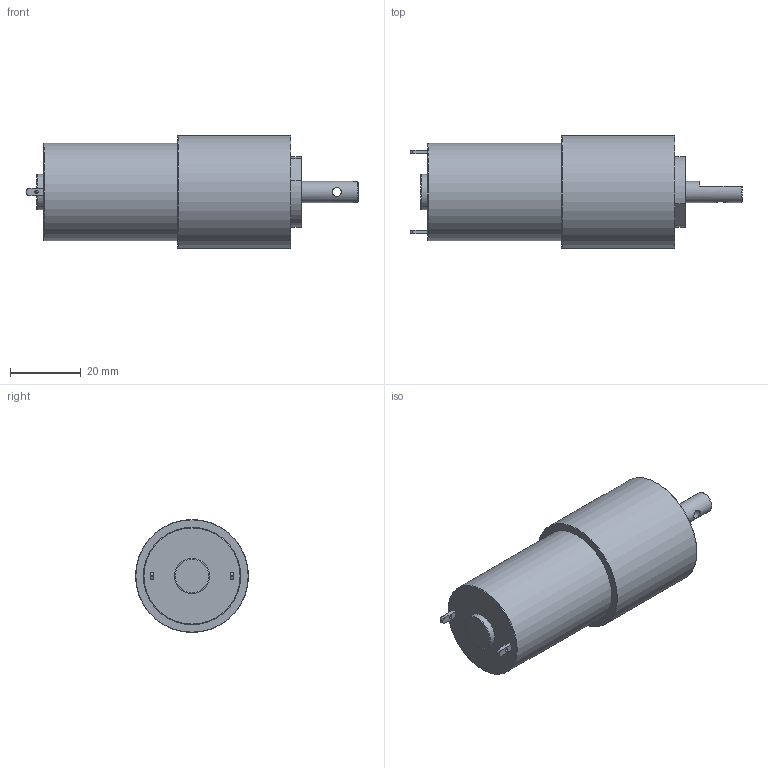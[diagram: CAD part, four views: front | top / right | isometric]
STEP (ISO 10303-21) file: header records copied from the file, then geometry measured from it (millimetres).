
FILE_DESCRIPTION(/* description */ (''),/* implementation_level */ '2;1');
FILE_NAME(/* name */ 'Rhino Planetary v2.step',/* time_stamp */ '2023-02-07T22:03:07+05:30',/* author */ (''),/* organization */ (''),/* preprocessor_version */ 'ST-DEVELOPER v19.2',/* originating_system */ 'Autodesk Translation Framework v11.17.0.187',/* authorisation */ '');
FILE_SCHEMA (('AUTOMOTIVE_DESIGN { 1 0 10303 214 3 1 1 }'));
Length unit declared in the file: millimetre
Products named in the file (2): Rhino Planetary; Component1
Assembly tree (1 placements, depth 2):
  Rhino Planetary
    Component1
Bounding box: 94 x 32 x 32 mm (x, y, z)
Volume: 49823.1 mm3; surface area: 8940.4 mm2
Topology: 2 solids, 2 shells, 49 faces, 111 edges, 74 vertices
Faces by surface type: plane 25, cylinder 17, torus 7
Full cylindrical faces by diameter (mm): 1 x2, 2.529 x5, 6 x1, 10 x1, 27.6 x1, 32 x1
Entity records: 1540 total; most frequent: CARTESIAN_POINT 334, DIRECTION 256, ORIENTED_EDGE 222, EDGE_CURVE 111, AXIS2_PLACEMENT_3D 102, VERTEX_POINT 74, EDGE_LOOP 63, LINE 52
